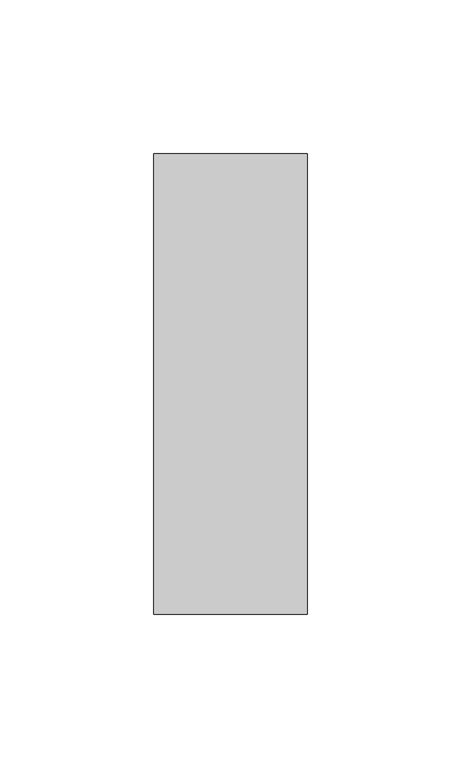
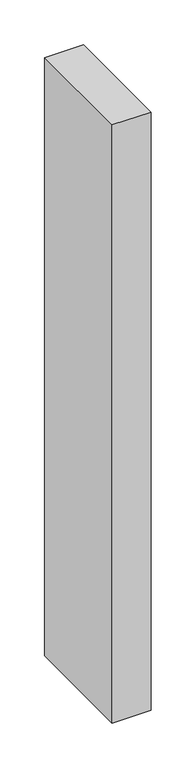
"""IFC4 building model written with IfcOpenShell, lengths in millimetres: member geometry, Прямоугольный импост : 50 x 150 мм."""

from ifc_helpers import new_model, si_unit, frame, origin, place, context, project, spatial, polyline, outline, extrude, source, transform, mapped, element, save


def member_65bb32a6(model_context):
    return source(origin(), model_context, "Body", "SweptSolid", [
        extrude(outline(polyline([(25.0, 75.0), (25.0, -75.0), (-25.0, -75.0), (-25.0, 75.0), (25.0, 75.0)])), frame((0.0, 0.0, -811.4300971), z_axis=(0.0, 0.0, 1.0), x_axis=(1.0, 0.0, 0.0)), (0.0, 0.0, 1.0), 811.4300971),
    ])


if __name__ == "__main__":
    model = new_model("IFC4")
    model_context = context("Model", 3, world=origin())
    ifc_project = project(units=[si_unit("LENGTHUNIT", "METRE", prefix="MILLI")], contexts=[model_context])
    site = spatial("IfcSite", under=ifc_project)
    building = spatial("IfcBuilding", under=site)
    placement = place(None, origin())
    member_shape = member_65bb32a6(model_context)
    element("IfcMember", 1, ObjectType="Прямоугольный импост : 50 x 150 мм", at=placement, inside=building, context=model_context, shape_type="MappedRepresentation", body=[
        mapped(member_shape, transform((0.0, 0.0, 0.0), x_axis=(1.0, 0.0, 0.0), y_axis=(0.0, 1.0, 0.0), z_axis=(0.0, 0.0, 1.0))),
    ])
    save(model, "model.ifc")
